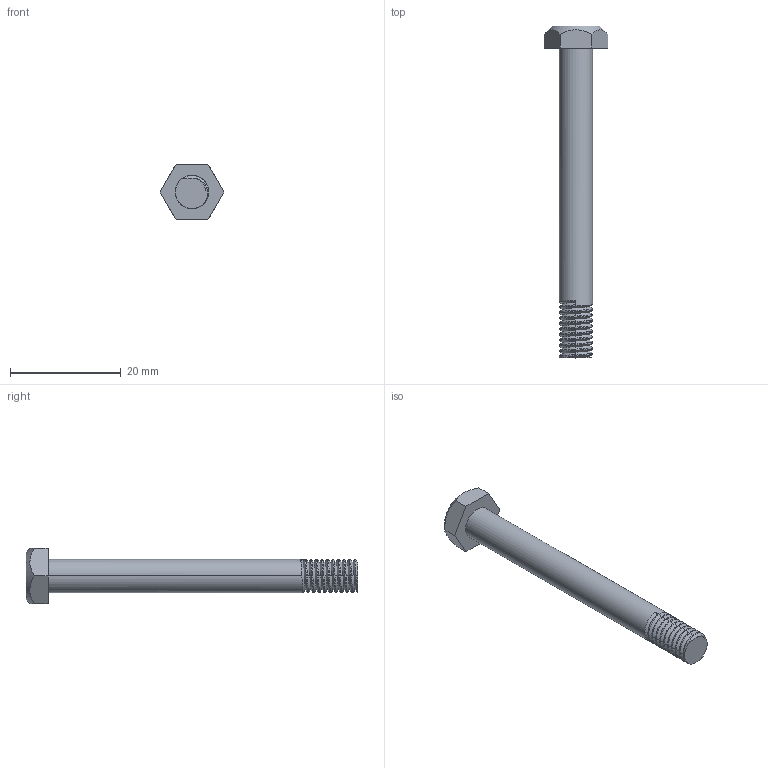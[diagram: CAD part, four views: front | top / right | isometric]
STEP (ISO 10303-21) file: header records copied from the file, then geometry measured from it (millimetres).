
FILE_DESCRIPTION(('CATIA V5 STEP Exchange'),'2;1');
FILE_NAME('D:\杨逍（新）\05-张磊\2022.11.10-转盘图纸-张磊\2022.11.18-单件图纸\SHT0015138-解锁钣金安装螺栓\SHT0015138.stp','2022-11-19T08:17:22+00:00',('none'),('none'),'CATIA Version 5 Release 20 GA (IN-10)','CATIA V5 STEP AP214','none');
FILE_SCHEMA(('AUTOMOTIVE_DESIGN { 1 0 10303 214 1 1 1 1 }'));
Length unit declared in the file: millimetre
Products named in the file (1): Part28
Bounding box: 11.55 x 60 x 10 mm (x, y, z)
Volume: 1879.4 mm3; surface area: 1413.7 mm2
Topology: 1 solids, 1 shells, 114 faces, 253 edges, 142 vertices
Faces by surface type: bspline 80, cylinder 21, plane 10, cone 3
Entity records: 4849 total; most frequent: CARTESIAN_POINT 3092, ORIENTED_EDGE 506, EDGE_CURVE 253, B_SPLINE_CURVE_WITH_KNOTS 208, VERTEX_POINT 142, EDGE_LOOP 115, ADVANCED_FACE 114, FACE_OUTER_BOUND 114
